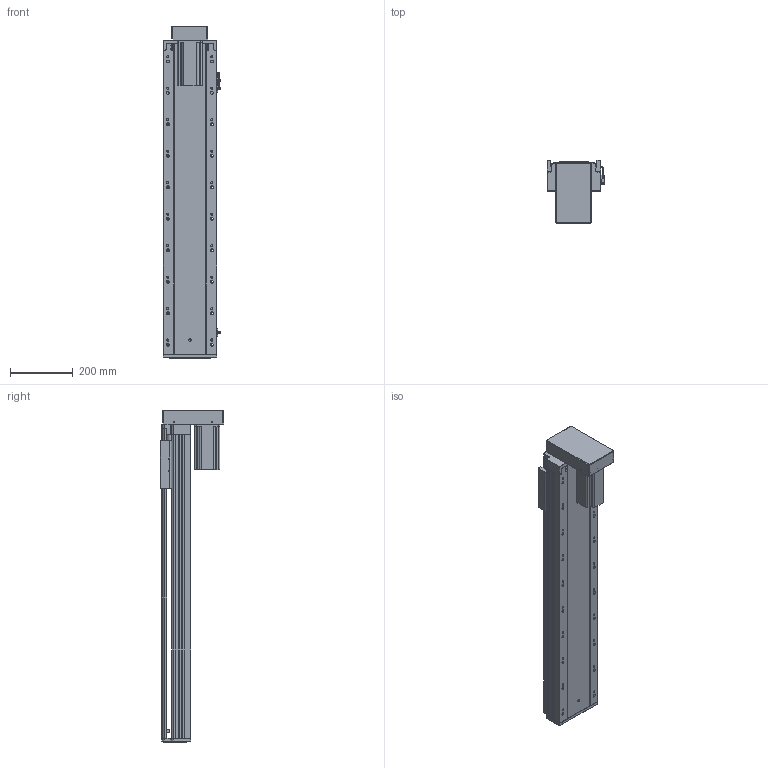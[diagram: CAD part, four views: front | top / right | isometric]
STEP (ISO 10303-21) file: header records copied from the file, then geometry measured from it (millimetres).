
FILE_DESCRIPTION (( 'STEP AP203' ), '1' );
FILE_NAME ('RY170-L2510-300-BK.SLDASM_750.step', '2021-03-12T08:58:17', ( '盈信电脑' ), ( '东莞市道滘镇水果街19号' ), 'SwSTEP 2.0', 'SolidWorks 2012', '' );
FILE_SCHEMA (( 'CONFIG_CONTROL_DESIGN' ));
Products named in the file (14): RY170-狟殏750W萇儂傷; RY170-L2510-300-BK.SLDASM_750; 怢湛750W萇儂ㄗ80遺ㄘ; RY170-狟殏萇儂假蚾啣; RY170狟殏萇儂欶; RY170转折电机端支撑座(7004); RY170外置感应片(200共用）; 滅袉蝶18-20; 滅袉蝶18-10; 覜茼ん672; RY170綴裔啣; 改造-RY170铝滑块25丝杆螺母; RY170-300倰第裔啣-BK_750; RY170-300倰第菁釱-BK_750
Assembly tree (15 placements, depth 3):
  RY170-L2510-300-BK.SLDASM_750
    RY170-300倰第菁釱-BK_750
    改造-RY170铝滑块25丝杆螺母
    RY170-300倰第裔啣-BK_750
    RY170綴裔啣
    覜茼ん672  x3
    RY170外置感应片(200共用）
    滅袉蝶18-20
    滅袉蝶18-10
    RY170转折电机端支撑座(7004)
    RY170-狟殏750W萇儂傷
      RY170-狟殏萇儂假蚾啣
      RY170狟殏萇儂欶
      怢湛750W萇儂ㄗ80遺ㄘ
Bounding box: 183.7 x 200.8 x 1054.5 mm (x, y, z)
Volume: 6133126.4 mm3; surface area: 1870232.3 mm2
Topology: 14 solids, 14 shells, 2216 faces, 6433 edges, 4142 vertices
Faces by surface type: plane 1086, cylinder 941, cone 170, bspline 19
Entity records: 73074 total; most frequent: CARTESIAN_POINT 18178, ORIENTED_EDGE 11618, DIRECTION 10563, EDGE_CURVE 5809, VERTEX_POINT 3822, AXIS2_PLACEMENT_3D 3525, LINE 3513, VECTOR 3513
